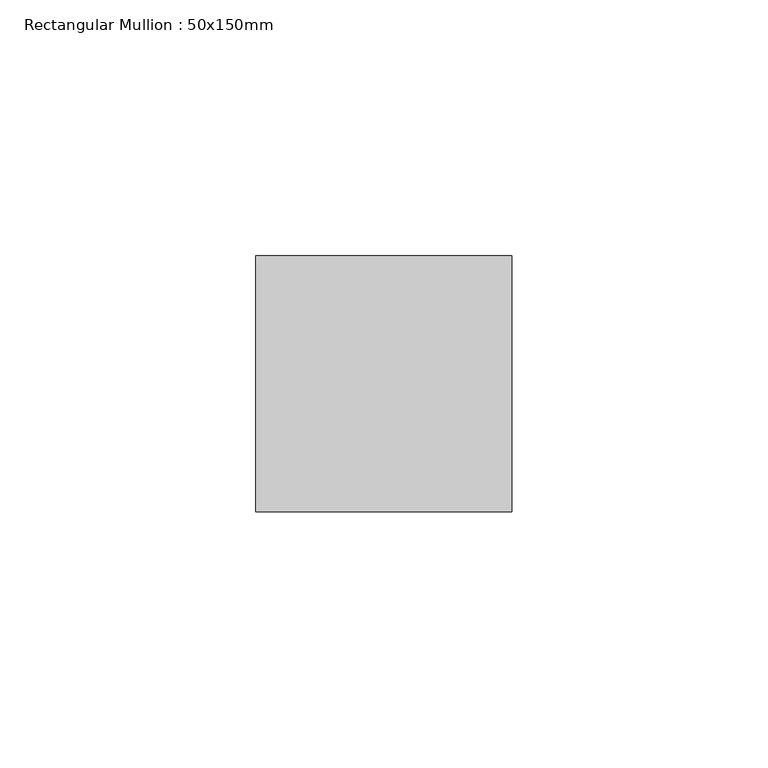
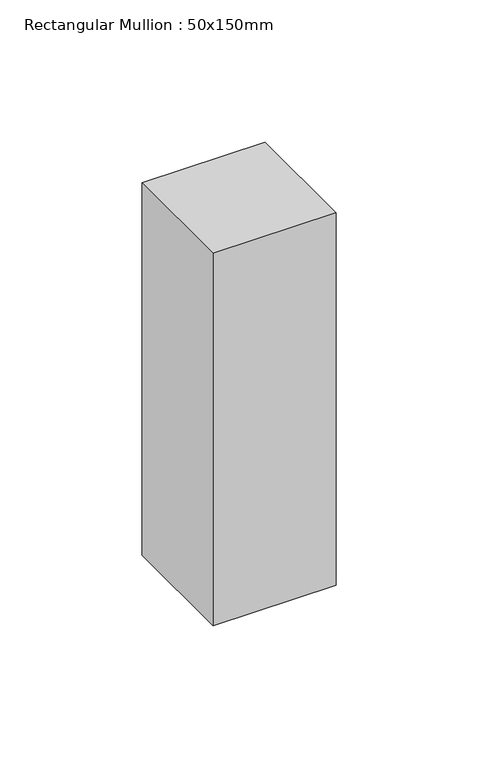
"""IFC4 building model written with IfcOpenShell, lengths in millimetres: member geometry, Rectangular Mullion : 50x150mm."""

from ifc_helpers import new_model, si_unit, frame, origin, place, context, project, spatial, polyline, outline, extrude, source, transform, mapped, element, save


def rectangular_mullion_50x150mm_f6aad40f(model_context):
    return source(origin(), model_context, "Body", "SweptSolid", [
        extrude(outline(polyline([(0.0, 25.0), (0.0, -25.0), (-50.0, -25.0), (-50.0, 25.0), (0.0, 25.0)])), frame((0.0, 0.0, -160.0), z_axis=(0.0, 0.0, 1.0), x_axis=(1.0, 0.0, 0.0)), (0.0, 0.0, 1.0), 160.0),
    ])


if __name__ == "__main__":
    model = new_model("IFC4")
    model_context = context("Model", 3, world=origin())
    ifc_project = project(units=[si_unit("LENGTHUNIT", "METRE", prefix="MILLI")], contexts=[model_context])
    site = spatial("IfcSite", under=ifc_project)
    building = spatial("IfcBuilding", under=site)
    placement = place(None, origin())
    rectangular_mullion_50x150mm_shape = rectangular_mullion_50x150mm_f6aad40f(model_context)
    element("IfcMember", 1, ObjectType="Rectangular Mullion : 50x150mm", at=placement, inside=building, context=model_context, shape_type="MappedRepresentation", body=[
        mapped(rectangular_mullion_50x150mm_shape, transform((0.0, 0.0, 0.0), x_axis=(1.0, 0.0, 0.0), y_axis=(0.0, 1.0, 0.0), z_axis=(0.0, 0.0, 1.0))),
    ])
    save(model, "model.ifc")
